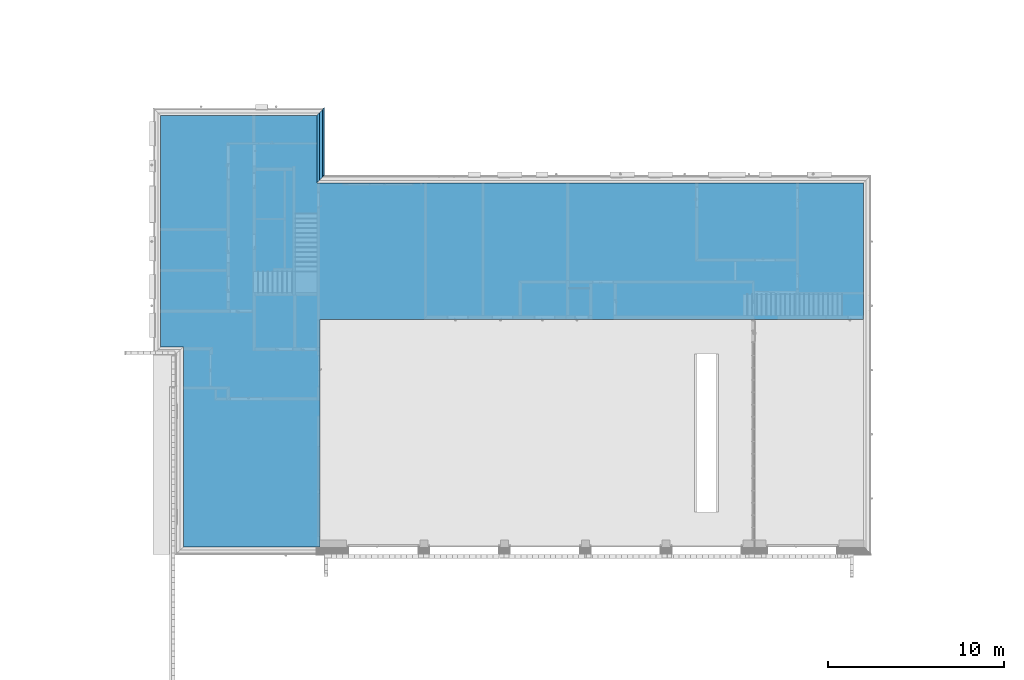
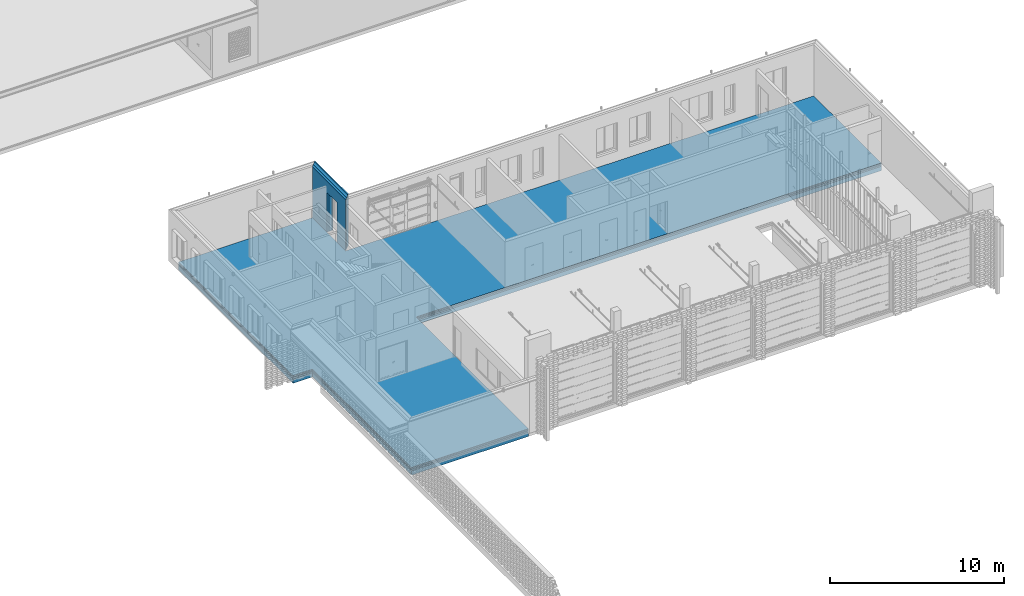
# One storey, part 17 of 62: 8 building element parts, 1 opening, 2 elements without a shape of their own.
"""IFC2X3 building model written with IfcOpenShell, lengths in millimetres."""

from ifc_helpers import new_model, entity, si_unit, converted_unit, derived_unit, money_unit, direction, frame, origin_with_axes, origin_2d_with_axis, place, context, subcontext, project, spatial, polyline, rectangle, outline, extrude, material, type_object, element, aggregate, save


model = new_model("IFC2X3")

# Units and contexts
model_context = context("Model", 3, precision=0.01, world=origin_with_axes(), true_north=direction((0.0, 1.0)))
body_context = subcontext(model_context, "Body", "Model", "MODEL_VIEW")
ifc_project = project(units=[si_unit("LENGTHUNIT", "METRE", prefix="MILLI"), si_unit("AREAUNIT", "SQUARE_METRE"), si_unit("VOLUMEUNIT", "CUBIC_METRE"), converted_unit("PLANEANGLEUNIT", "DEGREE", entity("IfcPlaneAngleMeasure", 0.0174532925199), si_unit("PLANEANGLEUNIT", "RADIAN"), dimensions=[0, 0, 0, 0, 0, 0, 0]), si_unit("SOLIDANGLEUNIT", "STERADIAN"), money_unit("EUR"), converted_unit("TIMEUNIT", "Year", entity("IfcTimeMeasure", 31556926.0), si_unit("TIMEUNIT", "SECOND"), dimensions=[0, 0, 1, 0, 0, 0, 0]), si_unit("MASSUNIT", "GRAM", prefix="KILO"), si_unit("THERMODYNAMICTEMPERATUREUNIT", "DEGREE_CELSIUS"), si_unit("LUMINOUSINTENSITYUNIT", "LUMEN"), si_unit("ENERGYUNIT", "JOULE", prefix="MEGA"), derived_unit("THERMALCONDUCTANCEUNIT", [(si_unit("POWERUNIT", "WATT"), 1), (si_unit("LENGTHUNIT", "METRE"), -1), (si_unit("THERMODYNAMICTEMPERATUREUNIT", "KELVIN"), -1)]), derived_unit("SPECIFICHEATCAPACITYUNIT", [(si_unit("ENERGYUNIT", "JOULE"), 1), (si_unit("MASSUNIT", "GRAM", prefix="KILO"), -1), (si_unit("THERMODYNAMICTEMPERATUREUNIT", "KELVIN"), -1)]), derived_unit("MASSDENSITYUNIT", [(si_unit("MASSUNIT", "GRAM", prefix="KILO"), 1), (si_unit("VOLUMEUNIT", "CUBIC_METRE"), -1)])], contexts=[model_context])

# Site, building, storey
site_placement = place(None, origin_with_axes())
site = spatial("IfcSite", under=ifc_project, at=site_placement, Name="KIRDE 14, ELVA", CompositionType="ELEMENT")
building_placement = place(site_placement, origin_with_axes())
building = spatial("IfcBuilding", under=site, at=building_placement, Name="PPA ja Päästeameti ühishoone", CompositionType="ELEMENT")
storey_placement = place(building_placement, origin_with_axes())
storey = spatial("IfcBuildingStorey", under=building, at=storey_placement, Name="Esimene korrus", CompositionType="ELEMENT", Elevation=0.0)

# Slab, building element parts
slab_type = type_object("IfcSlabType", Name="P-01 PORAND PINNASEL 535", PredefinedType="BASESLAB")
slab_placement = place(storey_placement, frame((9.31322574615e-07, 24599.8167323, 0.0), z_axis=(0.0, 0.0, 1.0), x_axis=(1.0, 0.0, 0.0)))
slab = element("IfcSlab", 1, at=slab_placement, inside=storey, type_object=slab_type, Name="PP-01", PredefinedType="BASESLAB")
ifc_material_1 = material(Name="Vahtpolüstüreen (4)")
building_element_part_1_placement = place(slab_placement, origin_with_axes())
building_element_part_1 = element("IfcBuildingElementPart", 2, at=building_element_part_1_placement, material=ifc_material_1, Name="Vahtpolüstüreen (4)", context=body_context, shape_type="SweptSolid", body=[
    extrude(outline(polyline([(0.0, 0.0), (-9.31322574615e-07, -13199.4200307), (1300.00014324, -13199.4200307), (1300.00014324, -24599.8167323), (9090.00013955, -24599.8168284), (9090.00013955, -11639.8161678), (40044.7048899, -11639.8161678), (40044.7048899, -3850.22510309), (8900.00012238, -3850.22510309), (8900.00012238, 0.0), (0.0, 0.0)])), frame((0.0, 0.0, -535.0), z_axis=(0.0, 0.0, 1.0), x_axis=(1.0, 0.0, 0.0)), (0.0, 0.0, 1.0), 300.0),
])
ifc_material_2 = material(Name="Concrete - Cast-in-Place Concrete - C12/15")
building_element_part_2_placement = place(slab_placement, origin_with_axes())
building_element_part_2 = element("IfcBuildingElementPart", 3, at=building_element_part_2_placement, material=ifc_material_2, Name="Concrete - Cast-in-Place Concrete - C12/15", context=body_context, shape_type="SweptSolid", body=[
    extrude(outline(polyline([(0.0, 0.0), (-9.31322574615e-07, -13199.4200307), (1300.00014324, -13199.4200307), (1300.00014324, -24599.8167323), (9090.00013955, -24599.8168284), (9090.00013955, -11639.8161678), (40044.7048899, -11639.8161678), (40044.7048899, -3850.22510309), (8900.00012238, -3850.22510309), (8900.00012238, 0.0), (0.0, 0.0)])), frame((0.0, 0.0, -235.0), z_axis=(0.0, 0.0, 1.0), x_axis=(1.0, 0.0, 0.0)), (0.0, 0.0, 1.0), 100.0),
])
ifc_material_3 = material(Name="Mineraalvill")
building_element_part_3_placement = place(slab_placement, origin_with_axes())
building_element_part_3 = element("IfcBuildingElementPart", 4, at=building_element_part_3_placement, material=ifc_material_3, Name="Mineraalvill", context=body_context, shape_type="SweptSolid", body=[
    extrude(outline(polyline([(0.0, 0.0), (-9.31322574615e-07, -13199.4200307), (1300.00014324, -13199.4200307), (1300.00014324, -24599.8167323), (9090.00013955, -24599.8168284), (9090.00013955, -11639.8161678), (40044.7048899, -11639.8161678), (40044.7048899, -3850.22510309), (8900.00012238, -3850.22510309), (8900.00012238, 0.0), (0.0, 0.0)])), frame((0.0, 0.0, -135.0), z_axis=(0.0, 0.0, 1.0), x_axis=(1.0, 0.0, 0.0)), (0.0, 0.0, 1.0), 30.0),
])
ifc_material_4 = material(Name="Concrete, Cast In Situ")
building_element_part_4_placement = place(slab_placement, origin_with_axes())
building_element_part_4 = element("IfcBuildingElementPart", 5, at=building_element_part_4_placement, material=ifc_material_4, Name="Concrete, Cast In Situ", context=body_context, shape_type="SweptSolid", body=[
    extrude(outline(polyline([(0.0, 0.0), (-9.31322574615e-07, -13199.4200307), (1300.00014324, -13199.4200307), (1300.00014324, -24599.8167323), (9090.00013955, -24599.8168284), (9090.00013955, -11639.8161678), (40044.7048899, -11639.8161678), (40044.7048899, -3850.22510309), (8900.00012238, -3850.22510309), (8900.00012238, 0.0), (0.0, 0.0)])), frame((0.0, 0.0, -105.0), z_axis=(0.0, 0.0, 1.0), x_axis=(1.0, 0.0, 0.0)), (0.0, 0.0, 1.0), 90.0),
])
ifc_material_5 = material(Name="Timber - Floor")
building_element_part_5_placement = place(slab_placement, origin_with_axes())
building_element_part_5 = element("IfcBuildingElementPart", 6, at=building_element_part_5_placement, material=ifc_material_5, Name="Timber - Floor", context=body_context, shape_type="SweptSolid", body=[
    extrude(outline(polyline([(0.0, 0.0), (-9.31322574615e-07, -13199.4200307), (1300.00014324, -13199.4200307), (1300.00014324, -24599.8167323), (9090.00013955, -24599.8168284), (9090.00013955, -11639.8161678), (40044.7048899, -11639.8161678), (40044.7048899, -3850.22510309), (8900.00012238, -3850.22510309), (8900.00012238, 0.0), (0.0, 0.0)])), frame((0.0, 0.0, -15.0), z_axis=(0.0, 0.0, 1.0), x_axis=(1.0, 0.0, 0.0)), (0.0, 0.0, 1.0), 15.0),
])
aggregate(slab, [building_element_part_1, building_element_part_2, building_element_part_3, building_element_part_4, building_element_part_5])

# Wall, opening, building element parts
wall_type = type_object("IfcWallType", Name="VS-01 430", PredefinedType="NOTDEFINED")
wall_placement = place(storey_placement, frame((8900.00012238, 24599.816736, 0.0), z_axis=(0.0, 0.0, 1.0), x_axis=(2.4188782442e-10, -1.0, 0.0)))
wall = element("IfcWall", 7, at=wall_placement, inside=storey, type_object=wall_type, Name="VS-01")
opening_placement = place(wall_placement, frame((2271.02281914, 0.0, 0.0), z_axis=(0.0, 0.0, 1.0), x_axis=(1.0, 0.0, 0.0)))
element("IfcOpeningElement", 8, at=opening_placement, cuts=wall, Name="VU-02", context=body_context, shape_type="SweptSolid", body=[
    extrude(rectangle(XDim=1200.0, YDim=2800.0, at=origin_2d_with_axis()), frame((-1.04012798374e-07, -430.0, 1400.0), z_axis=(2.4188782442e-10, 1.0, 0.0), x_axis=(1.0, -2.41888008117e-10, 0.0)), (0.0, 0.0, 1.0), 1290.0),
])
ifc_material_6 = material(Name="Raudbetoon Paneelid (2)")
building_element_part_6_placement = place(wall_placement, origin_with_axes())
building_element_part_6 = element("IfcBuildingElementPart", 9, at=building_element_part_6_placement, material=ifc_material_6, Name="Raudbetoon Paneelid (2)", context=body_context, shape_type="SweptSolid", body=[
    extrude(outline(polyline([(0.0, 0.0), (3850.22510681, 0.0), (3700.22510679, 150.0), (-150.000000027, 150.0), (0.0, 0.0)])), origin_with_axes(), (0.0, 0.0, 1.0), 3600.0),
])
building_element_part_7_placement = place(wall_placement, origin_with_axes())
building_element_part_7 = element("IfcBuildingElementPart", 10, at=building_element_part_7_placement, material=ifc_material_1, Name="Vahtpolüstüreen (4)", context=body_context, shape_type="SweptSolid", body=[
    extrude(outline(polyline([(-150.000000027, 150.0), (3700.22510679, 150.0), (3500.22510676, 350.0), (-350.000000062, 350.0), (-150.000000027, 150.0)])), origin_with_axes(), (0.0, 0.0, 1.0), 3600.0),
])
building_element_part_8_placement = place(wall_placement, origin_with_axes())
building_element_part_8 = element("IfcBuildingElementPart", 11, at=building_element_part_8_placement, material=ifc_material_6, Name="Raudbetoon Paneelid (2)", context=body_context, shape_type="SweptSolid", body=[
    extrude(outline(polyline([(-350.000000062, 350.0), (3500.22510676, 350.0), (3420.22510675, 430.0), (-430.000000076, 430.0), (-350.000000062, 350.0)])), origin_with_axes(), (0.0, 0.0, 1.0), 3600.0),
])
aggregate(wall, [building_element_part_6, building_element_part_7, building_element_part_8])

save(model, "model.ifc")
